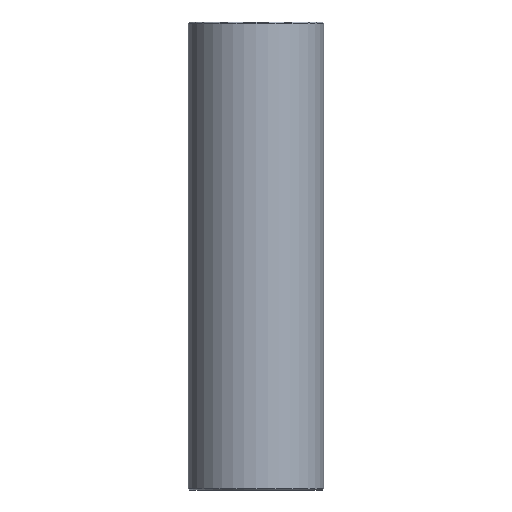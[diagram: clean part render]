
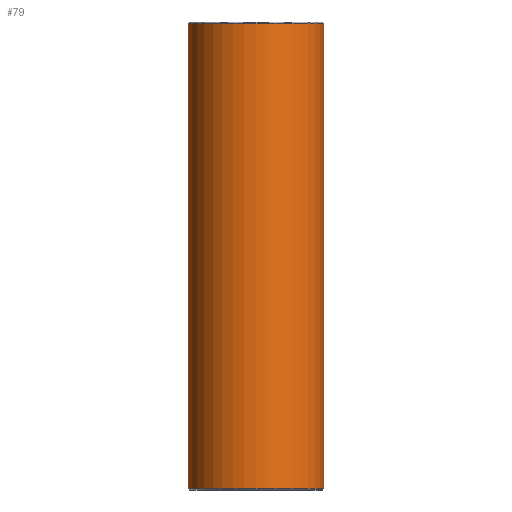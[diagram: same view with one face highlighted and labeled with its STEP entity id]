
A CAD part, front view. The second image highlights one B-rep face of the part: STEP entity #79.
In plain terms, the highlighted cylindrical face has radius 13 mm (diameter 26 mm), a full revolution.
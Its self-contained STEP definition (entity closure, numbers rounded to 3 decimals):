
#79=ADVANCED_FACE('',(#96,#97),#98,.T.);
#96=FACE_OUTER_BOUND('',#120,.T.);
#97=FACE_OUTER_BOUND('',#121,.T.);
#98=CYLINDRICAL_SURFACE('',#122,13.);
#120=EDGE_LOOP('',(#152));
#121=EDGE_LOOP('',(#153));
#122=AXIS2_PLACEMENT_3D('',#154,#155,#156);
#152=ORIENTED_EDGE('',*,*,#178,.T.);
#153=ORIENTED_EDGE('',*,*,#177,.T.);
#154=CARTESIAN_POINT('',(0.0,0.0,90.0));
#155=DIRECTION('',(0.0,0.0,-1.0));
#156=DIRECTION('',(-1.0,0.0,0.0));
#177=EDGE_CURVE('',#190,#190,#191,.T.);
#178=EDGE_CURVE('',#192,#192,#193,.F.);
#190=VERTEX_POINT('',#206);
#191=CIRCLE('',#207,13.);
#192=VERTEX_POINT('',#208);
#193=CIRCLE('',#209,13.);
#206=CARTESIAN_POINT('',(13.,0.0,0.2));
#207=AXIS2_PLACEMENT_3D('',#227,#228,#229);
#208=CARTESIAN_POINT('',(13.,0.,89.8));
#209=AXIS2_PLACEMENT_3D('',#230,#231,#232);
#227=CARTESIAN_POINT('',(0.0,0.0,0.2));
#228=DIRECTION('',(0.0,0.0,1.0));
#229=DIRECTION('',(1.0,0.0,0.0));
#230=CARTESIAN_POINT('',(0.0,0.0,89.8));
#231=DIRECTION('',(0.0,0.0,1.0));
#232=DIRECTION('',(1.0,0.0,0.0));
